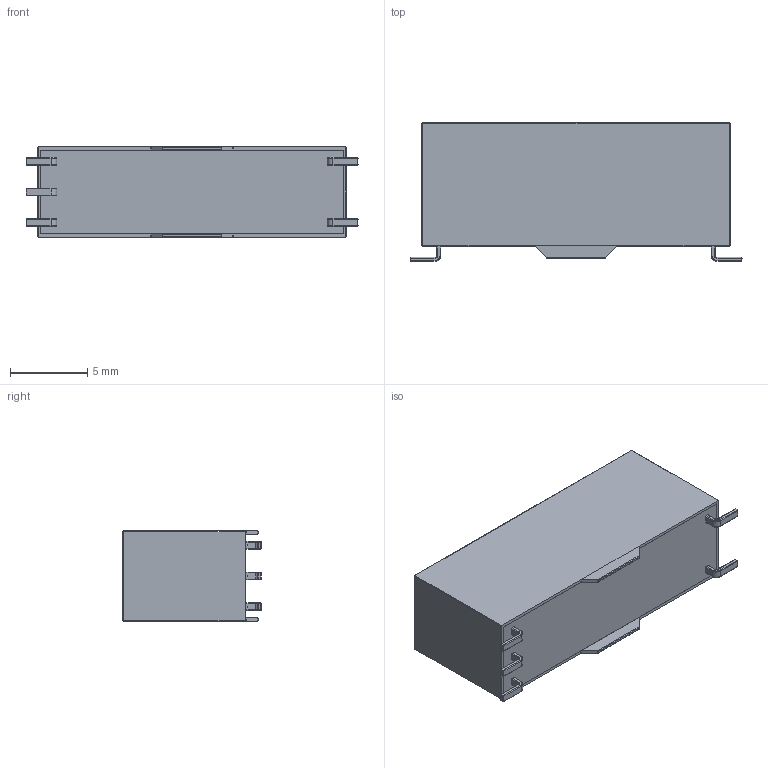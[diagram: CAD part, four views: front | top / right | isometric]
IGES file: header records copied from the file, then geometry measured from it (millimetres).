
Start section: SolidWorks IGES file using analytic representation for surfaces
Global section: file name: T:\Relays in Solidworks\Batch 1\200-1-C.IGS; native system: SolidWorks 2009; preprocessor: SolidWorks 2009; author: alex.leming; date: 100629.132152; units: inch
Bounding box: 21.55 x 9 x 5.85 mm (x, y, z)
Surface area: 1675.4 mm2 (no closed solid volume)
Topology: 0 solids, 0 shells, 456 faces, 3413 edges, 3386 vertices
Faces by surface type: bspline 318, revolution 138
